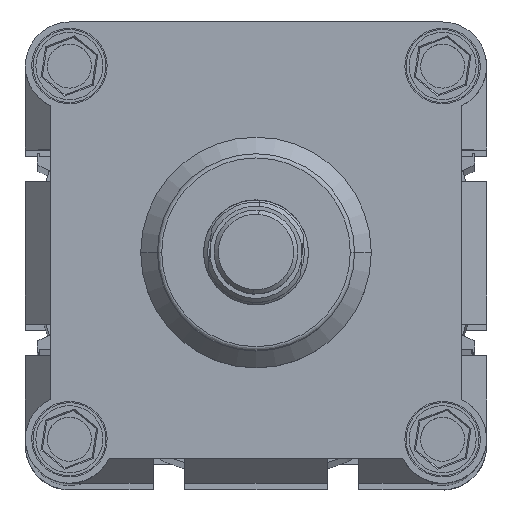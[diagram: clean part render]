
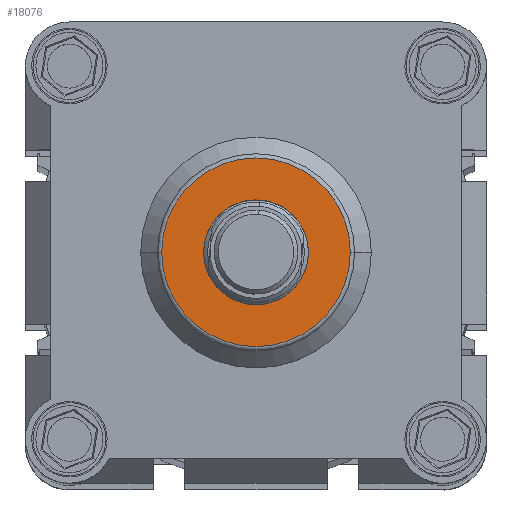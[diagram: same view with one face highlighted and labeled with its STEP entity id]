
A CAD part, top view. The second image highlights one B-rep face of the part: STEP entity #18076.
In plain terms, the highlighted planar face has unit normal (0, 0, 1).
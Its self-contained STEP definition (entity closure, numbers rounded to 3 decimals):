
#1056 = CARTESIAN_POINT ( 'NONE',  ( 32.5, 55., 80. ) ) ;
#2821 = EDGE_CURVE ( 'NONE', #3758, #9442, #10945, .T. ) ;
#3097 = AXIS2_PLACEMENT_3D ( 'NONE', #17254, #13536, #17401 ) ;
#3466 = DIRECTION ( 'NONE',  ( 1., 0., 0. ) ) ;
#3694 = CIRCLE ( 'NONE', #10159, 12.5 ) ;
#3758 = VERTEX_POINT ( 'NONE', #1056 ) ;
#3876 = VERTEX_POINT ( 'NONE', #19412 ) ;
#5401 = DIRECTION ( 'NONE',  ( 0., 0., 1. ) ) ;
#6007 = CARTESIAN_POINT ( 'NONE',  ( 77.5, 55., 80. ) ) ;
#7072 = AXIS2_PLACEMENT_3D ( 'NONE', #14445, #5401, #3466 ) ;
#7264 = VERTEX_POINT ( 'NONE', #15814 ) ;
#8438 = DIRECTION ( 'NONE',  ( 1., 0., 0. ) ) ;
#8746 = CARTESIAN_POINT ( 'NONE',  ( 55., 55., 80. ) ) ;
#9442 = VERTEX_POINT ( 'NONE', #6007 ) ;
#9740 = ORIENTED_EDGE ( 'NONE', *, *, #12540, .T. ) ;
#10159 = AXIS2_PLACEMENT_3D ( 'NONE', #10340, #19369, #22968 ) ;
#10340 = CARTESIAN_POINT ( 'NONE',  ( 55., 55., 80. ) ) ;
#10595 = DIRECTION ( 'NONE',  ( 0., 0., 1. ) ) ;
#10945 = CIRCLE ( 'NONE', #7072, 22.5 ) ;
#11720 = DIRECTION ( 'NONE',  ( 0., 0., 1. ) ) ;
#12320 = ORIENTED_EDGE ( 'NONE', *, *, #20634, .F. ) ;
#12540 = EDGE_CURVE ( 'NONE', #9442, #3758, #23010, .T. ) ;
#13158 = EDGE_CURVE ( 'NONE', #7264, #3876, #3694, .T. ) ;
#13448 = CARTESIAN_POINT ( 'NONE',  ( 55., 55., 80. ) ) ;
#13536 = DIRECTION ( 'NONE',  ( 0., 0., 1. ) ) ;
#13697 = EDGE_LOOP ( 'NONE', ( #12320, #18981 ) ) ;
#14445 = CARTESIAN_POINT ( 'NONE',  ( 55., 55., 80. ) ) ;
#15036 = CIRCLE ( 'NONE', #18662, 12.5 ) ;
#15814 = CARTESIAN_POINT ( 'NONE',  ( 42.5, 55., 80. ) ) ;
#17254 = CARTESIAN_POINT ( 'NONE',  ( 55., 55., 80. ) ) ;
#17302 = FACE_OUTER_BOUND ( 'NONE', #18757, .T. ) ;
#17401 = DIRECTION ( 'NONE',  ( 1., 0., 0. ) ) ;
#17590 = AXIS2_PLACEMENT_3D ( 'NONE', #8746, #10595, #8438 ) ;
#18076 = ADVANCED_FACE ( 'NONE', ( #22604, #17302 ), #22843, .T. ) ;
#18662 = AXIS2_PLACEMENT_3D ( 'NONE', #13448, #11720, #18781 ) ;
#18757 = EDGE_LOOP ( 'NONE', ( #9740, #22509 ) ) ;
#18781 = DIRECTION ( 'NONE',  ( 1., 0., 0. ) ) ;
#18981 = ORIENTED_EDGE ( 'NONE', *, *, #13158, .F. ) ;
#19369 = DIRECTION ( 'NONE',  ( 0., 0., 1. ) ) ;
#19412 = CARTESIAN_POINT ( 'NONE',  ( 67.5, 55., 80. ) ) ;
#20634 = EDGE_CURVE ( 'NONE', #3876, #7264, #15036, .T. ) ;
#22509 = ORIENTED_EDGE ( 'NONE', *, *, #2821, .T. ) ;
#22604 = FACE_BOUND ( 'NONE', #13697, .T. ) ;
#22843 = PLANE ( 'NONE',  #17590 ) ;
#22968 = DIRECTION ( 'NONE',  ( 1., 0., 0. ) ) ;
#23010 = CIRCLE ( 'NONE', #3097, 22.5 ) ;
